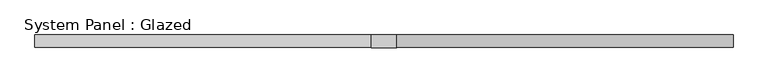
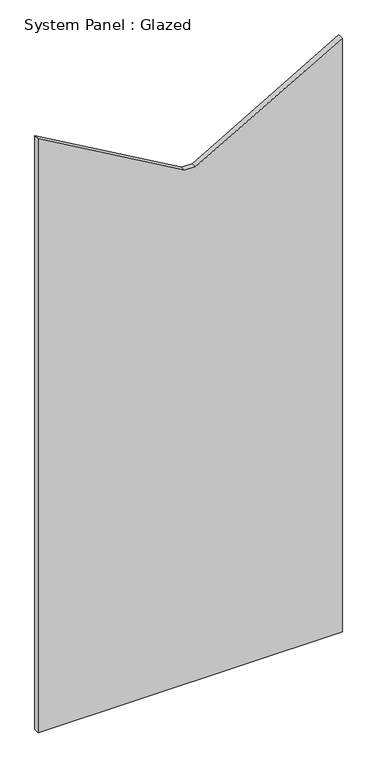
"""IFC4 building model written with IfcOpenShell, lengths in millimetres: plate geometry, System Panel : Glazed."""

from ifc_helpers import new_model, si_unit, frame, origin, place, context, project, spatial, polyline, outline, extrude, source, transform, mapped, element, save


def system_panel_glazed_43ff80ab(model_context):
    return source(origin(), model_context, "Body", "SweptSolid", [
        extrude(outline(polyline([(0.0, -694.4400387), (0.0, 694.4400387), (2865.8706818, 694.4400387), (2479.3692952, 25.0), (2479.3692952, -25.0), (2865.8706818, -694.4400387), (0.0, -694.4400387)])), frame((0.0, -49.5, 0.0), z_axis=(0.0, 1.0, 0.0), x_axis=(0.0, 0.0, 1.0)), (0.0, 0.0, 1.0), 25.0),
    ])


if __name__ == "__main__":
    model = new_model("IFC4")
    model_context = context("Model", 3, world=origin())
    ifc_project = project(units=[si_unit("LENGTHUNIT", "METRE", prefix="MILLI")], contexts=[model_context])
    site = spatial("IfcSite", under=ifc_project)
    building = spatial("IfcBuilding", under=site)
    placement = place(None, origin())
    system_panel_glazed_shape = system_panel_glazed_43ff80ab(model_context)
    element("IfcPlate", 1, ObjectType="System Panel : Glazed", at=placement, inside=building, context=model_context, shape_type="MappedRepresentation", body=[
        mapped(system_panel_glazed_shape, transform((0.0, 0.0, 0.0), x_axis=(1.0, 0.0, 0.0), y_axis=(0.0, 1.0, 0.0), z_axis=(0.0, 0.0, 1.0))),
    ])
    save(model, "model.ifc")
